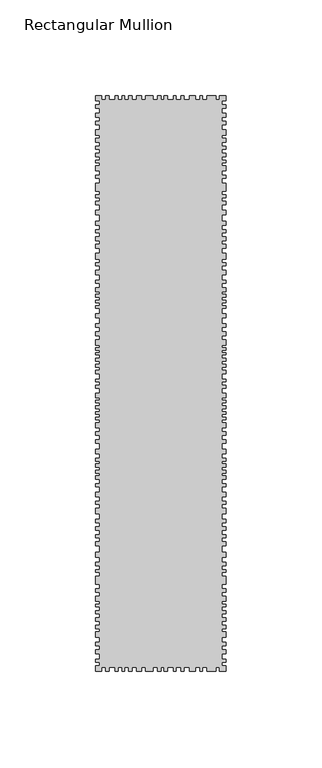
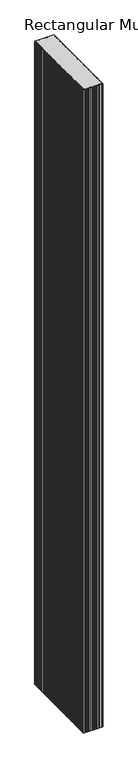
"""IFC4 building model written with IfcOpenShell, lengths in millimetres: member geometry, Rectangular Mullion : DucoSun Cubic Design louvre 300."""

import ifcopenshell
import ifcopenshell.guid

model = None  # the IFC model being written
_history = None  # IfcOwnerHistory: only IFC2X3 demands one
_inside = {}  # id of a spatial element -> (the spatial element, [elements in it])
_under = {}  # id of a project, library or spatial element -> (it, [spatial elements below it])
_declared = {}  # id of a project -> (the project, [libraries it declares])
_typed = {}  # id of a type object -> (the type object, [elements of that type])
_made_of = {}  # id of a material, layer set ... -> (it, [elements and type objects made of it])


def new_model(schema):
    """Start an empty IFC model of exactly this schema.

    Asked for "IFC4X3", IfcOpenShell would pick the latest addendum, in which some entities
    have other attributes; the version numbers below select the first issue.
    IFC2X3 requires an IfcOwnerHistory on every rooted entity: one is made here for all.
    """
    global model, _history
    if schema == "IFC4X3":
        model = ifcopenshell.file(schema_version=(4, 3, 0, 0))
    else:
        model = ifcopenshell.file(schema=schema)
    _inside.clear()
    _under.clear()
    _declared.clear()
    _typed.clear()
    _made_of.clear()
    _history = None
    if model.schema == "IFC2X3":
        org = make("IfcOrganization", Name="unknown")
        user = make(
            "IfcPersonAndOrganization",
            ThePerson=make("IfcPerson", FamilyName="unknown"),
            TheOrganization=org,
        )
        app = make(
            "IfcApplication",
            ApplicationDeveloper=org,
            Version="unknown",
            ApplicationFullName="unknown",
            ApplicationIdentifier="unknown",
        )
        _history = make(
            "IfcOwnerHistory",
            OwningUser=user,
            OwningApplication=app,
            ChangeAction="ADDED",
            CreationDate=0,
        )
    return model


def make(cls, **values):
    """One entity of the class cls with the attributes given. An attribute that is None is left unset."""
    return model.create_entity(
        cls, **{name: value for name, value in values.items() if value is not None}
    )


def rooted(cls, **values):
    """An entity with a GlobalId (a new one), such as an element, a storey or a relation."""
    return make(cls, GlobalId=ifcopenshell.guid.new(), OwnerHistory=_history, **values)


def si_unit(unit_type, name, prefix=None):
    """IfcSIUnit, for example si_unit("LENGTHUNIT", "METRE", prefix="MILLI")."""
    return make("IfcSIUnit", UnitType=unit_type, Prefix=prefix, Name=name)


def assignment(units):
    """IfcUnitAssignment: the units of a project."""
    return None if units is None else make("IfcUnitAssignment", Units=units)


def point(xyz):
    """IfcCartesianPoint."""
    return None if xyz is None else make("IfcCartesianPoint", Coordinates=xyz)


def direction(xyz):
    """IfcDirection."""
    return None if xyz is None else make("IfcDirection", DirectionRatios=xyz)


def frame(location, z_axis=None, x_axis=None):
    """IfcAxis2Placement3D, a coordinate frame: its origin and axes. An axis left out is left unset."""
    return make(
        "IfcAxis2Placement3D",
        Location=point(location),
        Axis=direction(z_axis),
        RefDirection=direction(x_axis),
    )


def origin():
    """The frame at (0, 0, 0) with its axes left unset."""
    return frame((0.0, 0.0, 0.0))


def place(relative_to, where):
    """IfcLocalPlacement: puts the frame where relative to a parent placement (None: the world)."""
    return make(
        "IfcLocalPlacement", PlacementRelTo=relative_to, RelativePlacement=where
    )


def context(
    kind, dimensions, precision=None, world=None, true_north=None, identifier=None
):
    """IfcGeometricRepresentationContext, for example the 3D "Model" context."""
    return make(
        "IfcGeometricRepresentationContext",
        ContextIdentifier=identifier,
        ContextType=kind,
        CoordinateSpaceDimension=dimensions,
        Precision=precision,
        WorldCoordinateSystem=world,
        TrueNorth=true_north,
    )


def project(units=None, contexts=None):
    """IfcProject with its units and contexts."""
    return rooted(
        "IfcProject",
        Name="project",
        RepresentationContexts=contexts,
        UnitsInContext=assignment(units),
    )


def spatial(cls, under=None, at=None, **own):
    """A site, building, storey or space (cls), placed at a placement, below another one or the project."""
    s = rooted(cls, ObjectPlacement=at, **own)
    if under is not None:
        _under.setdefault(under.id(), (under, []))[1].append(s)
    return s


def polyline(points):
    """IfcPolyline through the points."""
    return make("IfcPolyline", Points=[point(p) for p in points])


def outline(outer, holes=None, kind="AREA"):
    """IfcArbitraryClosedProfileDef: a profile drawn as a closed curve; with holes, ...WithVoids."""
    if holes is None:
        return make("IfcArbitraryClosedProfileDef", ProfileType=kind, OuterCurve=outer)
    return make(
        "IfcArbitraryProfileDefWithVoids",
        ProfileType=kind,
        OuterCurve=outer,
        InnerCurves=holes,
    )


def extrude(swept, where, along, depth):
    """IfcExtrudedAreaSolid: the profile swept, set in the frame where, extruded along a direction by depth."""
    return make(
        "IfcExtrudedAreaSolid",
        SweptArea=swept,
        Position=where,
        ExtrudedDirection=direction(along),
        Depth=depth,
    )


def shape(context_of_items, identifier, shape_type, items):
    """IfcShapeRepresentation: the items that make up one representation, for example the "Body"."""
    return make(
        "IfcShapeRepresentation",
        ContextOfItems=context_of_items,
        RepresentationIdentifier=identifier,
        RepresentationType=shape_type,
        Items=items,
    )


def source(mapping_origin, context_of_items, identifier, shape_type, items):
    """IfcRepresentationMap: a shape defined once, which mapped items show again and again."""
    return make(
        "IfcRepresentationMap",
        MappingOrigin=mapping_origin,
        MappedRepresentation=shape(context_of_items, identifier, shape_type, items),
    )


def transform(
    local_origin,
    x_axis=None,
    y_axis=None,
    z_axis=None,
    scale=None,
    scale2=None,
    scale3=None,
    uniform=True,
):
    """IfcCartesianTransformationOperator3D, or its non-uniform kind. x_axis, y_axis, z_axis: its Axis1, 2, 3."""
    if uniform:
        return make(
            "IfcCartesianTransformationOperator3D",
            Axis1=direction(x_axis),
            Axis2=direction(y_axis),
            LocalOrigin=point(local_origin),
            Scale=scale,
            Axis3=direction(z_axis),
        )
    return make(
        "IfcCartesianTransformationOperator3DnonUniform",
        Axis1=direction(x_axis),
        Axis2=direction(y_axis),
        LocalOrigin=point(local_origin),
        Scale=scale,
        Axis3=direction(z_axis),
        Scale2=scale2,
        Scale3=scale3,
    )


def mapped(mapping_source, mapping_target):
    """IfcMappedItem: shows the shape of a source again, moved by a transform."""
    return make(
        "IfcMappedItem", MappingSource=mapping_source, MappingTarget=mapping_target
    )


def made_of(thing, what):
    """Note that an element or type object is made of a material, layer set ...; save() writes the relation."""
    if what is not None:
        _made_of.setdefault(what.id(), (what, []))[1].append(thing)
    return thing


def element(
    cls,
    number,
    at=None,
    inside=None,
    cuts=None,
    type_object=None,
    material=None,
    context=None,
    identifier="Body",
    shape_type=None,
    held_by="IfcProductDefinitionShape",
    body=None,
    shapes=None,
    **own,
):
    """One element of the class cls, such as IfcWall. Its Tag is "e" and its number.

    at: its placement. inside: the storey or other place that contains it. cuts: it is an
    opening in that element (IfcRelVoidsElement). A single representation is given by context,
    identifier, shape_type and body (its items); several are given by shapes. held_by: the class
    of the entity that holds the representations. save() writes the other relations.
    """
    e = rooted(cls, Tag="e%d" % number, ObjectPlacement=at, **own)
    if body is not None:
        shapes = [shape(context, identifier, shape_type, body)]
    if shapes is not None:
        e.Representation = make(held_by, Representations=shapes)
    if inside is not None:
        _inside.setdefault(inside.id(), (inside, []))[1].append(e)
    if cuts is not None:
        rooted(
            "IfcRelVoidsElement", RelatingBuildingElement=cuts, RelatedOpeningElement=e
        )
    if type_object is not None:
        _typed.setdefault(type_object.id(), (type_object, []))[1].append(e)
    return made_of(e, material)


def aggregate(whole, parts):
    """IfcRelAggregates: a whole, such as a stair, and the parts it consists of."""
    return rooted("IfcRelAggregates", RelatingObject=whole, RelatedObjects=parts)


def save(model, path):
    """Write the relations noted so far, then the file.

    IfcRelAggregates (storeys below a building ...), IfcRelContainedInSpatialStructure (elements
    in a storey), IfcRelDefinesByType, IfcRelAssociatesMaterial and IfcRelDeclares: one each for
    every whole, place, type object, material and project.
    """
    for whole, parts in _under.values():
        aggregate(whole, parts)
    for where, things in _inside.values():
        rooted(
            "IfcRelContainedInSpatialStructure",
            RelatedElements=things,
            RelatingStructure=where,
        )
    for kind, things in _typed.values():
        rooted("IfcRelDefinesByType", RelatedObjects=things, RelatingType=kind)
    for what, things in _made_of.values():
        rooted("IfcRelAssociatesMaterial", RelatedObjects=things, RelatingMaterial=what)
    for by, libraries in _declared.values():
        rooted("IfcRelDeclares", RelatingContext=by, RelatedDefinitions=libraries)
    model.write(path)


def rectangular_mullion_73104130(model_context):
    return source(origin(), model_context, "Body", "SweptSolid", [
        extrude(outline(polyline([(0.0, 297.3782451), (-2.0, 297.3782451), (-2.0, 295.4241521), (0.0, 295.4241521), (0.0, 293.6532553), (-2.0, 293.6532553), (-2.0, 290.9460223), (0.0, 290.9460223), (0.0, 288.9105087), (-2.0, 288.9105087), (-2.0, 286.7121541), (0.0, 286.7121541), (0.0, 285.0023227), (-2.0, 285.0023227), (-2.0, 282.3561551), (0.0, 282.3561551), (0.0, 279.3843053), (-2.0, 279.3843053), (-2.0, 277.8917893), (0.0, 277.8917893), (0.0, 275.8425117), (-2.0, 275.8425117), (-2.0, 273.8680636), (0.0, 273.8680636), (0.0, 272.1582322), (-2.0, 272.1582322), (-2.0, 270.0820083), (0.0, 270.0820083), (0.0, 268.3111116), (-2.0, 268.3111116), (-2.0, 266.4995045), (0.0, 266.4995045), (0.0, 265.0713495), (-2.0, 265.0713495), (-2.0, 263.4577392), (0.0, 263.4577392), (0.0, 261.0328231), (-2.0, 261.0328231), (-2.0, 258.5725067), (0.0, 258.5725067), (0.0, 257.0325964), (-2.0, 257.0325964), (-2.0, 254.5014796), (0.0, 254.5014796), (0.0, 250.4127524), (-2.0, 250.4127524), (-2.0, 248.4126391), (0.0, 248.4126391), (0.0, 246.8373286), (-2.0, 246.8373286), (-2.0, 244.9965163), (0.0, 244.9965163), (0.0, 243.3504053), (-2.0, 243.3504053), (-2.0, 240.3767855), (0.0, 240.3767855), (0.0, 237.9545244), (-2.0, 237.9545244), (-2.0, 234.5552168), (0.0, 234.5552168), (0.0, 232.5197032), (-2.0, 232.5197032), (-2.0, 230.239928), (0.0, 230.239928), (0.0, 228.6929377), (-2.0, 228.6929377), (-2.0, 226.4335177), (0.0, 226.4335177), (0.0, 224.5608452), (-2.0, 224.5608452), (-2.0, 222.6271073), (0.0, 222.6271073), (0.0, 220.5508835), (-2.0, 220.5508835), (-2.0, 218.0064916), (0.0, 218.0064916), (0.0, 214.9328661), (-2.0, 214.9328661), (-2.0, 212.9177077), (0.0, 212.9177077), (0.0, 211.4114277), (-2.0, 211.4114277), (-2.0, 208.9688114), (0.0, 208.9688114), (0.0, 206.7118273), (-2.0, 206.7118273), (-2.0, 203.8852623), (0.0, 203.8852623), (0.0, 202.4316003), (-2.0, 202.4316003), (-2.0, 199.9011516), (0.0, 199.9011516), (0.0, 197.8552569), (-2.0, 197.8552569), (-2.0, 196.6169522), (0.0, 196.6169522), (0.0, 195.0825312), (-2.0, 195.0825312), (-2.0, 193.4673512), (0.0, 193.4673512), (0.0, 192.0675286), (-2.0, 192.0675286), (-2.0, 190.5869469), (0.0, 190.5869469), (0.0, 189.1602046), (-2.0, 189.1602046), (-2.0, 186.3310055), (0.0, 186.3310055), (0.0, 184.2608252), (-2.0, 184.2608252), (-2.0, 181.1919832), (0.0, 181.1919832), (0.0, 179.2537672), (-2.0, 179.2537672), (-2.0, 176.9360418), (0.0, 176.9360418), (0.0, 175.0004598), (-2.0, 175.0004598), (-2.0, 172.9007258), (0.0, 172.9007258), (0.0, 170.1010805), (-2.0, 170.1010805), (-2.0, 168.8089365), (0.0, 168.8089365), (0.0, 167.3014351), (-2.0, 167.3014351), (-2.0, 166.0362108), (0.0, 166.0362108), (0.0, 165.0401831), (-2.0, 165.0401831), (-2.0, 163.2096458), (0.0, 163.2096458), (0.0, 161.6483051), (-2.0, 161.6483051), (-2.0, 160.1408038), (0.0, 160.1408038), (0.0, 158.6063828), (-2.0, 158.6063828), (-2.0, 157.0719618), (0.0, 157.0719618), (0.0, 155.0799064), (-2.0, 155.0799064), (-2.0, 152.3762692), (0.0, 152.3762692), (0.0, 150.8903036), (-2.0, 150.8903036), (-2.0, 149.1257194), (0.0, 149.1257194), (0.0, 147.6087962), (-2.0, 147.6087962), (-2.0, 144.8535683), (0.0, 144.8535683), (0.0, 142.7484504), (-2.0, 142.7484504), (-2.0, 141.4172729), (0.0, 141.4172729), (0.0, 139.9622649), (-2.0, 139.9622649), (-2.0, 138.3524688), (0.0, 138.3524688), (0.0, 136.8355456), (-2.0, 136.8355456), (-2.0, 135.1947919), (0.0, 135.1947919), (0.0, 133.9255296), (-2.0, 133.9255296), (-2.0, 132.5014792), (0.0, 132.5014792), (0.0, 131.1083865), (-2.0, 131.1083865), (-2.0, 129.6843361), (0.0, 129.6843361), (0.0, 127.0529387), (-2.0, 127.0529387), (-2.0, 124.9787784), (0.0, 124.9787784), (0.0, 123.0284485), (-2.0, 123.0284485), (-2.0, 120.7995001), (0.0, 120.7995001), (0.0, 118.8182126), (-2.0, 118.8182126), (-2.0, 115.6914933), (0.0, 115.6914933), (0.0, 113.4935025), (-2.0, 113.4935025), (-2.0, 110.954978), (0.0, 110.954978), (0.0, 109.4070971), (-2.0, 109.4070971), (-2.0, 108.1378348), (0.0, 108.1378348), (0.0, 106.4970812), (-2.0, 106.4970812), (-2.0, 104.8253698), (0.0, 104.8253698), (0.0, 103.3394042), (-2.0, 103.3394042), (-2.0, 102.0391843), (0.0, 102.0391843), (0.0, 100.0578969), (-2.0, 100.0578969), (-2.0, 97.6741604), (0.0, 97.6741604), (0.0, 96.0953219), (-2.0, 96.0953219), (-2.0, 93.3091364), (0.0, 93.3091364), (0.0, 91.0182728), (-2.0, 91.0182728), (-2.0, 88.572621), (0.0, 88.572621), (0.0, 87.1485707), (-2.0, 87.1485707), (-2.0, 85.0124951), (0.0, 85.0124951), (0.0, 82.1643944), (-2.0, 82.1643944), (-2.0, 79.3782089), (0.0, 79.3782089), (0.0, 77.427879), (-2.0, 77.427879), (-2.0, 75.4156339), (0.0, 75.4156339), (0.0, 73.6510498), (-2.0, 73.6510498), (-2.0, 71.1744404), (0.0, 71.1744404), (0.0, 69.6884748), (-2.0, 69.6884748), (-2.0, 67.5523993), (0.0, 67.5523993), (0.0, 65.4163237), (-2.0, 65.4163237), (-2.0, 62.1967316), (0.0, 62.1967316), (0.0, 59.5343765), (-2.0, 59.5343765), (-2.0, 56.7791486), (0.0, 56.7791486), (0.0, 55.0764797), (-2.0, 55.0764797), (-2.0, 52.9404041), (0.0, 52.9404041), (0.0, 51.6092266), (-2.0, 51.6092266), (-2.0, 49.5660239), (0.0, 49.5660239), (0.0, 45.512038), (-2.0, 45.512038), (-2.0, 43.0030092), (0.0, 43.0030092), (0.0, 41.3312979), (-2.0, 41.3312979), (-2.0, 39.0404342), (0.0, 39.0404342), (0.0, 36.5638249), (-2.0, 36.5638249), (-2.0, 35.015944), (0.0, 35.015944), (0.0, 33.5609361), (-2.0, 33.5609361), (-2.0, 31.5796486), (0.0, 31.5796486), (0.0, 30.0627254), (-2.0, 30.0627254), (-2.0, 27.8337769), (0.0, 27.8337769), (0.0, 26.1620656), (-2.0, 26.1620656), (-2.0, 24.0259901), (0.0, 24.0259901), (0.0, 22.0756602), (-2.0, 22.0756602), (-2.0, 20.6516099), (0.0, 20.6516099), (0.0, 17.7415939), (-2.0, 17.7415939), (-2.0, 15.2030693), (0.0, 15.2030693), (0.0, 13.1908242), (-2.0, 13.1908242), (-2.0, 11.2404944), (0.0, 11.2404944), (0.0, 9.1353764), (-2.0, 9.1353764), (-2.0, 6.2563181), (0.0, 6.2563181), (0.0, 4.6155644), (-2.0, 4.6155644), (-2.0, 2.8509802), (0.0, 2.8509802), (0.0, 0.0), (-3.5455586, 0.0), (-3.5455586, 2.0), (-5.372058, 2.0), (-5.372058, 0.0), (-10.0157006, 0.0), (-10.0157006, 2.0), (-12.1827337, 2.0), (-12.1827337, 0.0), (-13.6996569, 0.0), (-13.6996569, 2.0), (-16.0524358, 2.0), (-16.0524358, 0.0), (-19.1172399, 0.0), (-19.1172399, 2.0), (-21.9034254, 2.0), (-21.9034254, 0.0), (-23.6060943, 0.0), (-23.6060943, 2.0), (-25.9898308, 2.0), (-25.9898308, 0.0), (-27.4757964, 0.0), (-27.4757964, 2.0), (-30.5115322, 2.0), (-30.5115322, 0.0), (-32.2905711, 0.0), (-32.2905711, 2.0), (-34.0, 2.0), (-34.0, 0.0), (-35.8486488, 0.0), (-35.8486488, 2.0), (-38.2128978, 2.0), (-38.2128978, 0.0), (-41.9816511, 0.0), (-41.9816511, 2.0), (-44.0415908, 2.0), (-44.0415908, 0.0), (-46.7335575, 0.0), (-46.7335575, 2.0), (-49.0041729, 2.0), (-49.0041729, 0.0), (-50.8768453, 0.0), (-50.8768453, 2.0), (-52.9367851, 2.0), (-52.9367851, 0.0), (-54.2710642, 0.0), (-54.2710642, 2.0), (-56.3075955, 2.0), (-56.3075955, 0.0), (-57.8993671, 0.0), (-57.8993671, 2.0), (-60.9658683, 2.0), (-60.9658683, 0.0), (-62.9321744, 0.0), (-62.9321744, 2.0), (-64.8750721, 2.0), (-64.8750721, 0.0), (-68.0, 0.0), (-68.0, 2.8509802), (-66.0, 2.8509802), (-66.0, 4.6155644), (-68.0, 4.6155644), (-68.0, 6.2563181), (-66.0, 6.2563181), (-66.0, 9.1353764), (-68.0, 9.1353764), (-68.0, 11.2404944), (-66.0, 11.2404944), (-66.0, 13.1908242), (-68.0, 13.1908242), (-68.0, 15.2030693), (-66.0, 15.2030693), (-66.0, 17.7415939), (-68.0, 17.7415939), (-68.0, 20.6516099), (-66.0, 20.6516099), (-66.0, 22.0756602), (-68.0, 22.0756602), (-68.0, 24.0259901), (-66.0, 24.0259901), (-66.0, 26.1620656), (-68.0, 26.1620656), (-68.0, 27.8337769), (-66.0, 27.8337769), (-66.0, 30.0627254), (-68.0, 30.0627254), (-68.0, 31.5796486), (-66.0, 31.5796486), (-66.0, 33.5609361), (-68.0, 33.5609361), (-68.0, 35.015944), (-66.0, 35.015944), (-66.0, 36.5638249), (-68.0, 36.5638249), (-68.0, 39.0404342), (-66.0, 39.0404342), (-66.0, 41.3312979), (-68.0, 41.3312979), (-68.0, 43.0030092), (-66.0, 43.0030092), (-66.0, 45.512038), (-68.0, 45.512038), (-68.0, 49.5660239), (-66.0, 49.5660239), (-66.0, 51.6092266), (-68.0, 51.6092266), (-68.0, 52.9404041), (-66.0, 52.9404041), (-66.0, 55.0764797), (-68.0, 55.0764797), (-68.0, 56.7791486), (-66.0, 56.7791486), (-66.0, 59.5343765), (-68.0, 59.5343765), (-68.0, 62.1967316), (-66.0, 62.1967316), (-66.0, 65.4163237), (-68.0, 65.4163237), (-68.0, 67.5523993), (-66.0, 67.5523993), (-66.0, 69.6884748), (-68.0, 69.6884748), (-68.0, 71.1744404), (-66.0, 71.1744404), (-66.0, 73.6510498), (-68.0, 73.6510498), (-68.0, 75.4156339), (-66.0, 75.4156339), (-66.0, 77.427879), (-68.0, 77.427879), (-68.0, 79.3782089), (-66.0, 79.3782089), (-66.0, 82.1643944), (-68.0, 82.1643944), (-68.0, 85.0124951), (-66.0, 85.0124951), (-66.0, 87.1485707), (-68.0, 87.1485707), (-68.0, 88.572621), (-66.0, 88.572621), (-66.0, 91.0182728), (-68.0, 91.0182728), (-68.0, 93.3091364), (-66.0, 93.3091364), (-66.0, 96.0953219), (-68.0, 96.0953219), (-68.0, 97.6741604), (-66.0, 97.6741604), (-66.0, 100.0578969), (-68.0, 100.0578969), (-68.0, 102.0391843), (-66.0, 102.0391843), (-66.0, 103.3394042), (-68.0, 103.3394042), (-68.0, 104.8253698), (-66.0, 104.8253698), (-66.0, 106.4970812), (-68.0, 106.4970812), (-68.0, 108.1378348), (-66.0, 108.1378348), (-66.0, 109.4070971), (-68.0, 109.4070971), (-68.0, 110.954978), (-66.0, 110.954978), (-66.0, 113.4935025), (-68.0, 113.4935025), (-68.0, 115.6914933), (-66.0, 115.6914933), (-66.0, 118.8182126), (-68.0, 118.8182126), (-68.0, 120.7995001), (-66.0, 120.7995001), (-66.0, 123.0284485), (-68.0, 123.0284485), (-68.0, 124.9787784), (-66.0, 124.9787784), (-66.0, 127.0529387), (-68.0, 127.0529387), (-68.0, 129.6843361), (-66.0, 129.6843361), (-66.0, 131.1083865), (-68.0, 131.1083865), (-68.0, 132.5014792), (-66.0, 132.5014792), (-66.0, 133.9255296), (-68.0, 133.9255296), (-68.0, 135.1947919), (-66.0, 135.1947919), (-66.0, 136.8355456), (-68.0, 136.8355456), (-68.0, 138.3524688), (-66.0, 138.3524688), (-66.0, 139.9622649), (-68.0, 139.9622649), (-68.0, 141.4172729), (-66.0, 141.4172729), (-66.0, 142.7484504), (-68.0, 142.7484504), (-68.0, 144.8535683), (-66.0, 144.8535683), (-66.0, 147.6087962), (-68.0, 147.6087962), (-68.0, 149.1257194), (-66.0, 149.1257194), (-66.0, 150.8903036), (-68.0, 150.8903036), (-68.0, 152.3762692), (-66.0, 152.3762692), (-66.0, 155.0799064), (-68.0, 155.0799064), (-68.0, 157.0719618), (-66.0, 157.0719618), (-66.0, 158.6063828), (-68.0, 158.6063828), (-68.0, 160.1408038), (-66.0, 160.1408038), (-66.0, 161.6483051), (-68.0, 161.6483051), (-68.0, 163.2096458), (-66.0, 163.2096458), (-66.0, 165.0401831), (-68.0, 165.0401831), (-68.0, 166.0362108), (-66.0, 166.0362108), (-66.0, 167.3014351), (-68.0, 167.3014351), (-68.0, 168.8089365), (-66.0, 168.8089365), (-66.0, 170.1010805), (-68.0, 170.1010805), (-68.0, 172.9007258), (-66.0, 172.9007258), (-66.0, 175.0004598), (-68.0, 175.0004598), (-68.0, 176.9360418), (-66.0, 176.9360418), (-66.0, 179.2537672), (-68.0, 179.2537672), (-68.0, 181.1919832), (-66.0, 181.1919832), (-66.0, 184.2608252), (-68.0, 184.2608252), (-68.0, 186.3310055), (-66.0, 186.3310055), (-66.0, 189.1602046), (-68.0, 189.1602046), (-68.0, 190.5869469), (-66.0, 190.5869469), (-66.0, 192.0675286), (-68.0, 192.0675286), (-68.0, 193.4673512), (-66.0, 193.4673512), (-66.0, 195.0825312), (-68.0, 195.0825312), (-68.0, 196.6169522), (-66.0, 196.6169522), (-66.0, 197.8552569), (-68.0, 197.8552569), (-68.0, 199.9011516), (-66.0, 199.9011516), (-66.0, 202.4316003), (-68.0, 202.4316003), (-68.0, 203.8852623), (-66.0, 203.8852623), (-66.0, 206.7118273), (-68.0, 206.7118273), (-68.0, 208.9688114), (-66.0, 208.9688114), (-66.0, 211.4114277), (-68.0, 211.4114277), (-68.0, 212.9177077), (-66.0, 212.9177077), (-66.0, 214.9328661), (-68.0, 214.9328661), (-68.0, 218.0064916), (-66.0, 218.0064916), (-66.0, 220.5508835), (-68.0, 220.5508835), (-68.0, 222.6271073), (-66.0, 222.6271073), (-66.0, 224.5608452), (-68.0, 224.5608452), (-68.0, 226.4335177), (-66.0, 226.4335177), (-66.0, 228.6929377), (-68.0, 228.6929377), (-68.0, 230.239928), (-66.0, 230.239928), (-66.0, 232.5197032), (-68.0, 232.5197032), (-68.0, 234.5552168), (-66.0, 234.5552168), (-66.0, 237.9545244), (-68.0, 237.9545244), (-68.0, 240.3767855), (-66.0, 240.3767855), (-66.0, 243.3504053), (-68.0, 243.3504053), (-68.0, 244.9965163), (-66.0, 244.9965163), (-66.0, 246.8373286), (-68.0, 246.8373286), (-68.0, 248.4126391), (-66.0, 248.4126391), (-66.0, 250.4127524), (-68.0, 250.4127524), (-68.0, 254.5014796), (-66.0, 254.5014796), (-66.0, 257.0325964), (-68.0, 257.0325964), (-68.0, 258.5725067), (-66.0, 258.5725067), (-66.0, 261.0328231), (-68.0, 261.0328231), (-68.0, 263.4577392), (-66.0, 263.4577392), (-66.0, 265.0713495), (-68.0, 265.0713495), (-68.0, 266.4995045), (-66.0, 266.4995045), (-66.0, 268.3111116), (-68.0, 268.3111116), (-68.0, 270.0820083), (-66.0, 270.0820083), (-66.0, 272.1582322), (-68.0, 272.1582322), (-68.0, 273.8680636), (-66.0, 273.8680636), (-66.0, 275.8425117), (-68.0, 275.8425117), (-68.0, 277.8917893), (-66.0, 277.8917893), (-66.0, 279.3843053), (-68.0, 279.3843053), (-68.0, 282.3561551), (-66.0, 282.3561551), (-66.0, 285.0023227), (-68.0, 285.0023227), (-68.0, 286.7121541), (-66.0, 286.7121541), (-66.0, 288.9105087), (-68.0, 288.9105087), (-68.0, 290.9460223), (-66.0, 290.9460223), (-66.0, 293.6532553), (-68.0, 293.6532553), (-68.0, 295.4241521), (-66.0, 295.4241521), (-66.0, 297.3782451), (-68.0, 297.3782451), (-68.0, 300.0), (-64.8750721, 300.0), (-64.8750721, 298.0), (-62.9321744, 298.0), (-62.9321744, 300.0), (-60.9658683, 300.0), (-60.9658683, 298.0), (-57.8993671, 298.0), (-57.8993671, 300.0), (-56.3075955, 300.0), (-56.3075955, 298.0), (-54.2710642, 298.0), (-54.2710642, 300.0), (-52.9367851, 300.0), (-52.9367851, 298.0), (-50.8768453, 298.0), (-50.8768453, 300.0), (-49.0041729, 300.0), (-49.0041729, 298.0), (-46.7335575, 298.0), (-46.7335575, 300.0), (-44.0415908, 300.0), (-44.0415908, 298.0), (-41.9816511, 298.0), (-41.9816511, 300.0), (-38.2128978, 300.0), (-38.2128978, 298.0), (-35.8486488, 298.0), (-35.8486488, 300.0), (-34.0, 300.0), (-34.0, 298.0), (-32.2905711, 298.0), (-32.2905711, 300.0), (-30.5115322, 300.0), (-30.5115322, 298.0), (-27.4757964, 298.0), (-27.4757964, 300.0), (-25.9898308, 300.0), (-25.9898308, 298.0), (-23.6060943, 298.0), (-23.6060943, 300.0), (-21.9034254, 300.0), (-21.9034254, 298.0), (-19.1172399, 298.0), (-19.1172399, 300.0), (-16.0524358, 300.0), (-16.0524358, 298.0), (-13.6996569, 298.0), (-13.6996569, 300.0), (-12.1827337, 300.0), (-12.1827337, 298.0), (-10.0157006, 298.0), (-10.0157006, 300.0), (-5.372058, 300.0), (-5.372058, 298.0), (-3.5455586, 298.0), (-3.5455586, 300.0), (0.0, 300.0), (0.0, 297.3782451)])), frame((0.0, 0.0, -2400.0), z_axis=(0.0, 0.0, 1.0), x_axis=(1.0, 0.0, 0.0)), (0.0, 0.0, 1.0), 2400.0),
    ])


if __name__ == "__main__":
    model = new_model("IFC4")
    model_context = context("Model", 3, world=origin())
    ifc_project = project(units=[si_unit("LENGTHUNIT", "METRE", prefix="MILLI")], contexts=[model_context])
    site = spatial("IfcSite", under=ifc_project)
    building = spatial("IfcBuilding", under=site)
    placement = place(None, origin())
    rectangular_mullion_shape = rectangular_mullion_73104130(model_context)
    element("IfcMember", 1, ObjectType="Rectangular Mullion : DucoSun Cubic Design louvre 300", at=placement, inside=building, context=model_context, shape_type="MappedRepresentation", body=[
        mapped(rectangular_mullion_shape, transform((0.0, 0.0, 0.0), x_axis=(1.0, 0.0, 0.0), y_axis=(0.0, 1.0, 0.0), z_axis=(0.0, 0.0, 1.0))),
    ])
    save(model, "model.ifc")
